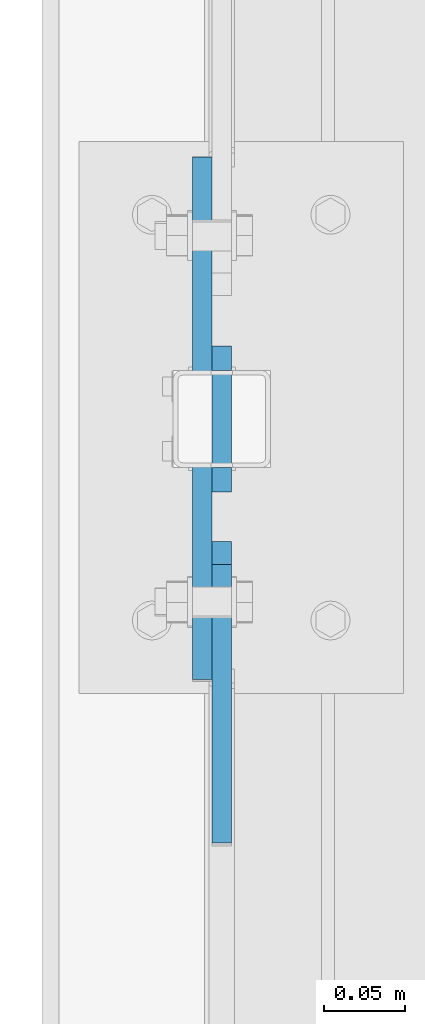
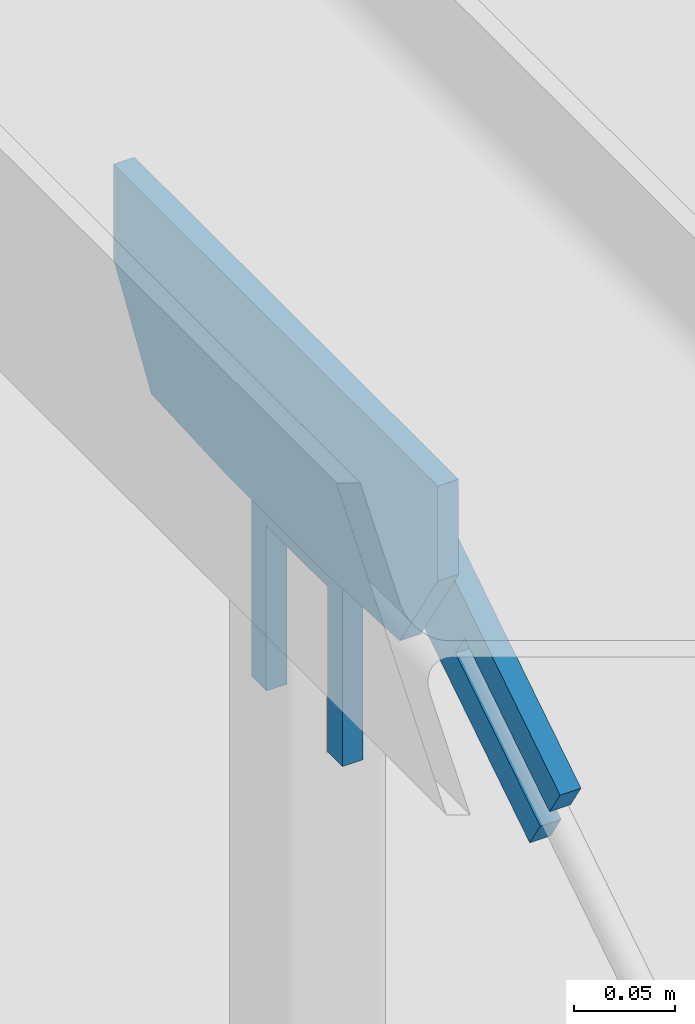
# One storey, part 108 of 271: 3 plates, 3 elements without a shape of their own.
"""IFC2X3 building model written with IfcOpenShell, lengths in millimetres."""

from ifc_helpers import new_model, si_unit, frame, origin_with_axes, place, context, subcontext, project, spatial, polyline, outline, extrude, material, type_object, element, aggregate, save


model = new_model("IFC2X3")

# Units and contexts
model_context = context("Model", 3, precision=1e-05, world=origin_with_axes())
body_context = subcontext(model_context, "Body", "Model", "MODEL_VIEW")
ifc_project = project(units=[si_unit("LENGTHUNIT", "METRE", prefix="MILLI"), si_unit("AREAUNIT", "SQUARE_METRE"), si_unit("VOLUMEUNIT", "CUBIC_METRE"), si_unit("MASSUNIT", "GRAM", prefix="KILO"), si_unit("TIMEUNIT", "SECOND"), si_unit("PLANEANGLEUNIT", "RADIAN"), si_unit("SOLIDANGLEUNIT", "STERADIAN"), si_unit("THERMODYNAMICTEMPERATUREUNIT", "DEGREE_CELSIUS"), si_unit("LUMINOUSINTENSITYUNIT", "LUMEN")], contexts=[model_context])

# Site, building, storey
site_placement = place(None, origin_with_axes())
site = spatial("IfcSite", under=ifc_project, at=site_placement, Name="Undefined", CompositionType="ELEMENT")
building_placement = place(site_placement, origin_with_axes())
building = spatial("IfcBuilding", under=site, at=building_placement, Name="Undefined", CompositionType="ELEMENT")
storey_placement = place(building_placement, origin_with_axes())
storey = spatial("IfcBuildingStorey", under=building, at=storey_placement, Name="Undefined", CompositionType="ELEMENT", Elevation=0.0)

# Assembly, plate
assembly_1_placement = place(storey_placement, origin_with_axes())
assembly_1 = element("IfcElementAssembly", 1, at=assembly_1_placement, inside=storey, AssemblyPlace="NOTDEFINED", PredefinedType="RIGID_FRAME")
ifc_material = material(Name="STEEL/S355JR")
plate_type_1 = type_object("IfcPlateType", Name="BL12*56", PredefinedType="NOTDEFINED")
plate_1_placement = place(assembly_1_placement, frame((99.0, 2098.99333854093, 1279.88429530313), z_axis=(1.0, 0.0, 0.0), x_axis=(0.0, 0.215177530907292, 0.976574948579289)))
plate_1 = element("IfcPlate", 2, at=plate_1_placement, type_object=plate_type_1, material=ifc_material, Name="BLACHA", ObjectType="BL12*56", context=body_context, shape_type="SweptSolid", body=[
    extrude(outline(polyline([(0.0, 0.0), (21.2132034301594, 1.09139364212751e-11), (39.5979804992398, 18.3847751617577), (39.5979804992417, 39.5979804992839), (-86.9741363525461, 166.170089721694), (-100.762718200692, 152.381515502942), (-30.0520401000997, 81.670829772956), (-42.0728530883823, 69.6500167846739), (-112.783531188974, 140.36070251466), (-126.57211303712, 126.57211303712), (0.0, 0.0)])), frame((0.0, 0.0, -6.0), z_axis=(0.0, 0.0, 1.0), x_axis=(1.0, 0.0, 0.0)), (0.0, 0.0, 1.0), 12.0),
])
aggregate(assembly_1, [plate_1])

assembly_2_placement = place(storey_placement, origin_with_axes())
assembly_2 = element("IfcElementAssembly", 3, at=assembly_2_placement, inside=storey, AssemblyPlace="NOTDEFINED", PredefinedType="RIGID_FRAME")
plate_type_2 = type_object("IfcPlateType", Name="BL12*90", PredefinedType="NOTDEFINED")
plate_2_placement = place(assembly_2_placement, frame((99.0, 2224.19355050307, 1275.87220454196), z_axis=(1.0, 0.0, 0.0), x_axis=(0.0, -0.707106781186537, 0.707106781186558)))
plate_2 = element("IfcPlate", 4, at=plate_2_placement, type_object=plate_type_2, material=ifc_material, Name="BLACHA", ObjectType="BL12*90", context=body_context, shape_type="SweptSolid", body=[
    extrude(outline(polyline([(0.0, 0.0), (21.2132034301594, 1.09139364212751e-11), (63.6396102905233, 42.4264068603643), (63.6396102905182, 63.6396102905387), (-48.7903671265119, 176.069595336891), (-59.0434150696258, 165.816543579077), (11.6672620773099, 95.1058654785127), (-31.4662513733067, 51.9723472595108), (-102.176933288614, 122.683029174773), (-112.42997741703, 112.429977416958), (0.0, 0.0)])), frame((0.0, 0.0, -6.0), z_axis=(0.0, 0.0, 1.0), x_axis=(1.0, 0.0, 0.0)), (0.0, 0.0, 1.0), 12.0),
])
aggregate(assembly_2, [plate_2])

assembly_3_placement = place(storey_placement, origin_with_axes())
assembly_3 = element("IfcElementAssembly", 5, at=assembly_3_placement, inside=storey, AssemblyPlace="NOTDEFINED", PredefinedType="RIGID_FRAME")
plate_type_3 = type_object("IfcPlateType", Name="BL12*120", PredefinedType="NOTDEFINED")
plate_3_placement = place(assembly_3_placement, frame((87.0, 2340.51496613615, 1361.04999995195), z_axis=(1.0, 0.0, 0.0), x_axis=(0.0, -1.0, 0.0)))
plate_3 = element("IfcPlate", 6, at=plate_3_placement, type_object=plate_type_3, material=ifc_material, Name="BLACHA", ObjectType="BL12*120", context=body_context, shape_type="SweptSolid", body=[
    extrude(outline(polyline([(0.0, 0.0), (321.788452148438, 7.29869498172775e-11), (321.788452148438, 57.6872482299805), (284.101196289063, 116.675987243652), (211.321411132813, 120.177795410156), (111.321418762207, 120.177795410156), (37.4588623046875, 116.592895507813), (9.09494701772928e-13, 57.4588623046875), (0.0, 0.0)])), frame((0.0, 0.0, -6.0), z_axis=(0.0, 0.0, 1.0), x_axis=(1.0, 0.0, 0.0)), (0.0, 0.0, 1.0), 12.0),
])
aggregate(assembly_3, [plate_3])

save(model, "model.ifc")
